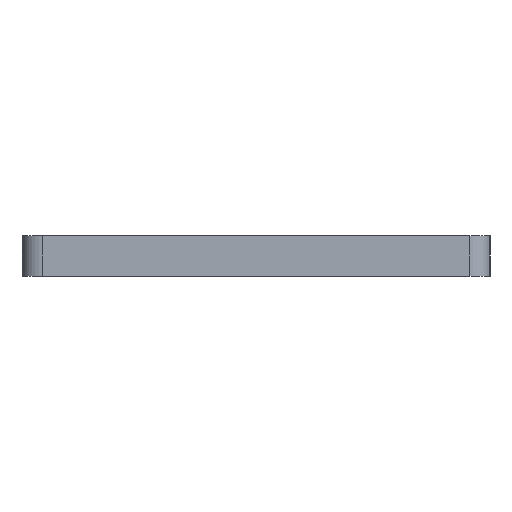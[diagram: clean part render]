
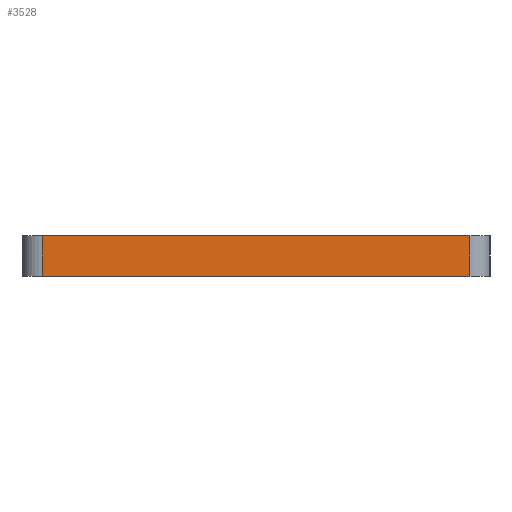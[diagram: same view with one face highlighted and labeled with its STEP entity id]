
A CAD part, left-side view. The second image highlights one B-rep face of the part: STEP entity #3528.
In plain terms, the highlighted planar face has unit normal (-1, 0, 0).
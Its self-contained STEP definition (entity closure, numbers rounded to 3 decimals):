
#790=CARTESIAN_POINT('',(0.001,146.973,3.5));
#791=VERTEX_POINT('',#790);
#792=CARTESIAN_POINT('',(0.001,82.973,3.5));
#793=VERTEX_POINT('',#792);
#794=CARTESIAN_POINT('',(0.001,146.973,3.5));
#795=DIRECTION('',(0.,-1.,0.));
#796=VECTOR('',#795,64.);
#797=LINE('',#794,#796);
#798=EDGE_CURVE('',#791,#793,#797,.T.);
#3389=CARTESIAN_POINT('',(0.001,82.973,-2.5));
#3390=VERTEX_POINT('',#3389);
#3398=CARTESIAN_POINT('',(0.001,146.973,-2.5));
#3399=VERTEX_POINT('',#3398);
#3400=CARTESIAN_POINT('',(0.001,146.973,-2.5));
#3401=DIRECTION('',(0.,-1.,0.));
#3402=VECTOR('',#3401,64.);
#3403=LINE('',#3400,#3402);
#3404=EDGE_CURVE('',#3399,#3390,#3403,.T.);
#3507=CARTESIAN_POINT('',(0.001,114.973,3.5));
#3508=DIRECTION('',(1.,0.,0.));
#3509=DIRECTION('',(0.,0.,-1.));
#3510=AXIS2_PLACEMENT_3D('',#3507,#3508,#3509);
#3511=PLANE('',#3510);
#3512=ORIENTED_EDGE('',*,*,#3404,.T.);
#3513=CARTESIAN_POINT('',(0.001,82.973,-2.5));
#3514=DIRECTION('',(-0.,-0.,1.));
#3515=VECTOR('',#3514,6.);
#3516=LINE('',#3513,#3515);
#3517=EDGE_CURVE('',#3390,#793,#3516,.T.);
#3518=ORIENTED_EDGE('',*,*,#3517,.T.);
#3519=ORIENTED_EDGE('',*,*,#798,.F.);
#3520=CARTESIAN_POINT('',(0.001,146.973,3.5));
#3521=DIRECTION('',(0.,0.,-1.));
#3522=VECTOR('',#3521,6.);
#3523=LINE('',#3520,#3522);
#3524=EDGE_CURVE('',#791,#3399,#3523,.T.);
#3525=ORIENTED_EDGE('',*,*,#3524,.T.);
#3526=EDGE_LOOP('',(#3512,#3518,#3519,#3525));
#3527=FACE_BOUND('',#3526,.T.);
#3528=ADVANCED_FACE('',(#3527),#3511,.F.);
